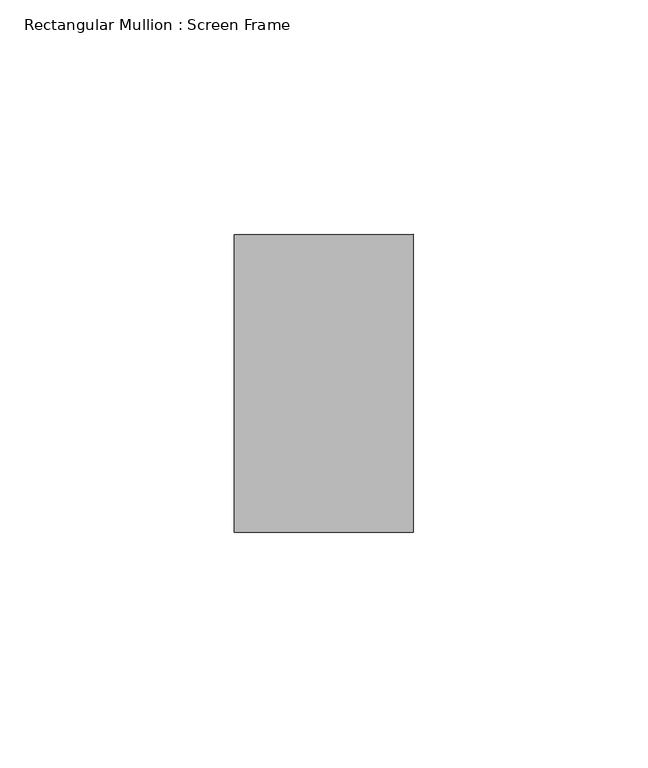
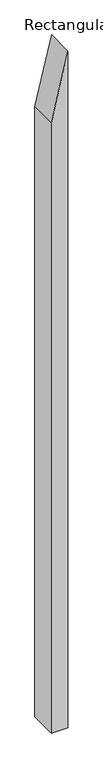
"""IFC4 building model written with IfcOpenShell, lengths in millimetres: member geometry, Rectangular Mullion : Screen Frame."""

from ifc_helpers import new_model, si_unit, frame, origin, place, context, project, spatial, polyline, outline, extrude, source, transform, mapped, element, save


def rectangular_mullion_screen_frame_a20606ee(model_context):
    return source(origin(), model_context, "Body", "SweptSolid", [
        extrude(outline(polyline([(0.0, 0.0), (-159.034112, -38.1), (-1617.6139535, -38.1), (-1617.6139535, 0.0), (0.0, 0.0)])), frame((0.0, -31.75, 0.0), z_axis=(0.0, 1.0, 0.0), x_axis=(0.0, 0.0, 1.0)), (0.0, 0.0, 1.0), 63.5),
    ])


if __name__ == "__main__":
    model = new_model("IFC4")
    model_context = context("Model", 3, world=origin())
    ifc_project = project(units=[si_unit("LENGTHUNIT", "METRE", prefix="MILLI")], contexts=[model_context])
    site = spatial("IfcSite", under=ifc_project)
    building = spatial("IfcBuilding", under=site)
    placement = place(None, origin())
    rectangular_mullion_screen_frame_shape = rectangular_mullion_screen_frame_a20606ee(model_context)
    element("IfcMember", 1, ObjectType="Rectangular Mullion : Screen Frame", at=placement, inside=building, context=model_context, shape_type="MappedRepresentation", body=[
        mapped(rectangular_mullion_screen_frame_shape, transform((0.0, 0.0, 0.0), x_axis=(1.0, 0.0, 0.0), y_axis=(0.0, 1.0, 0.0), z_axis=(0.0, 0.0, 1.0))),
    ])
    save(model, "model.ifc")
